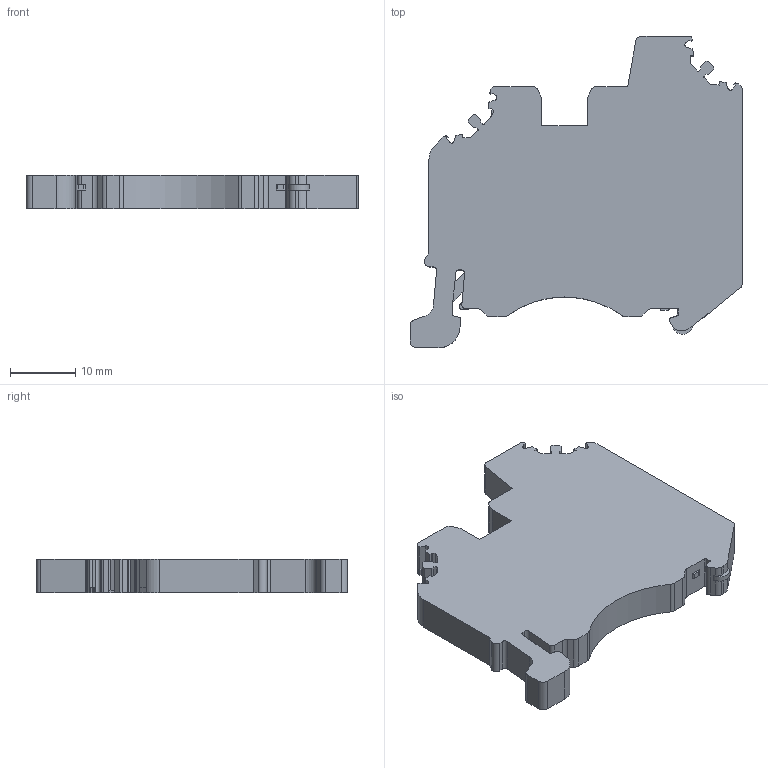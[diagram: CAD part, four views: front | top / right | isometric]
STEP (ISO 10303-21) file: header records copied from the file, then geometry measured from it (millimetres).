
FILE_DESCRIPTION(/* description */ ('Unknown'),/* implementation_level */ '2;1');
FILE_NAME(/* name */ 'dc2_5-tw-pe-01p-1c-00a_h_-e_asm',/* time_stamp */ '2022-03-16T14:01:37+08:00',/* author */ ('Unknown'),/* organization */ ('Unknown'),/* preprocessor_version */ 'ST-DEVELOPER v16.7',/* originating_system */ 'Solid Edge',/* authorisation */ 'Unknown');
FILE_SCHEMA (('AUTOMOTIVE_DESIGN {1 0 10303 214 3 1 1}'));
Length unit declared in the file: millimetre
Products named in the file (1): dc2_5-tw-pe-01p-1c-00a_h_-e_asm
Bounding box: 50.9 x 47.7 x 5.2 mm (x, y, z)
Volume: 8366.4 mm3; surface area: 4547.3 mm2
Topology: 1 solids, 1 shells, 703 faces, 1918 edges, 1287 vertices
Faces by surface type: plane 476, cylinder 160, bspline 67
Full cylindrical faces by diameter (mm): 1.65 x1, 1.75 x1, 2.1 x1, 2.8 x2
Entity records: 24050 total; most frequent: CARTESIAN_POINT 6420, ORIENTED_EDGE 3820, DIRECTION 3336, EDGE_CURVE 1910, LINE 1404, VECTOR 1404, VERTEX_POINT 1284, AXIS2_PLACEMENT_3D 966
